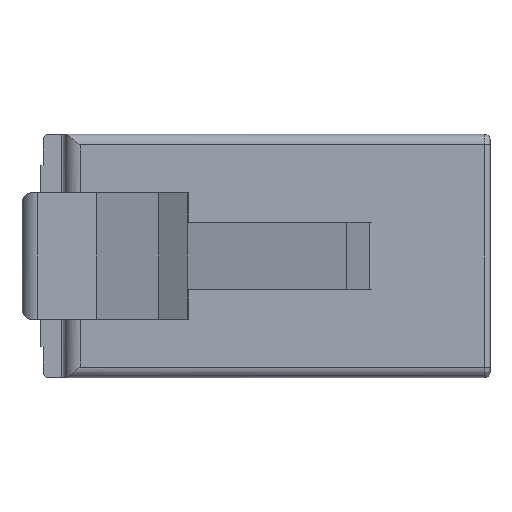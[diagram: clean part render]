
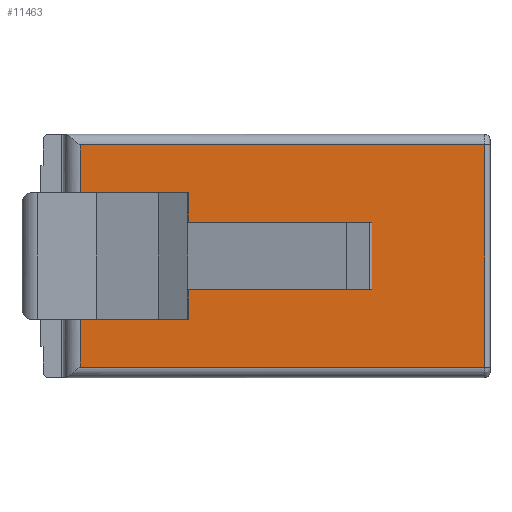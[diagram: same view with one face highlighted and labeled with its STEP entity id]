
A CAD part, front view. The second image highlights one B-rep face of the part: STEP entity #11463.
In plain terms, the highlighted planar face has unit normal (0, -1, 0).
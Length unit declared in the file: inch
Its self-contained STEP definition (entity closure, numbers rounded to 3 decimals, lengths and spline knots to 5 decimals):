
#2657=CARTESIAN_POINT('',(-0.3525,-0.1575,0.21));
#2659=DIRECTION('',(1.,0.,0.));
#2660=VECTOR('',#2659,0.04);
#2661=CARTESIAN_POINT('',(-0.3525,-0.1575,-0.12));
#2662=LINE('',#2661,#2660);
#2663=DIRECTION('',(0.,0.,1.));
#2664=VECTOR('',#2663,0.24);
#2665=CARTESIAN_POINT('',(-0.3125,-0.1575,-0.12));
#2666=LINE('',#2665,#2664);
#2667=DIRECTION('',(1.,0.,0.));
#2668=VECTOR('',#2667,0.04);
#2669=CARTESIAN_POINT('',(-0.3525,-0.1575,0.12));
#2670=LINE('',#2669,#2668);
#2671=DIRECTION('',(0.,0.,-1.));
#2672=VECTOR('',#2671,0.09);
#2673=CARTESIAN_POINT('',(-0.3525,-0.1575,0.21));
#2674=LINE('',#2673,#2672);
#2675=DIRECTION('',(-1.,0.,0.));
#2676=VECTOR('',#2675,0.765);
#2677=CARTESIAN_POINT('',(0.4125,-0.1575,0.21));
#2678=LINE('',#2677,#2676);
#2679=DIRECTION('',(0.,0.,-1.));
#2680=VECTOR('',#2679,0.42);
#2681=CARTESIAN_POINT('',(0.4125,-0.1575,0.21));
#2682=LINE('',#2681,#2680);
#2683=DIRECTION('',(-1.,0.,0.));
#2684=VECTOR('',#2683,0.765);
#2685=CARTESIAN_POINT('',(0.4125,-0.1575,-0.21));
#2686=LINE('',#2685,#2684);
#2687=DIRECTION('',(0.,0.,-1.));
#2688=VECTOR('',#2687,0.09);
#2689=CARTESIAN_POINT('',(-0.3525,-0.1575,-0.12));
#2690=LINE('',#2689,#2688);
#3389=CARTESIAN_POINT('',(-0.3525,-0.1575,-0.21));
#6155=VERTEX_POINT('',#2657);
#6156=VERTEX_POINT('',#3389);
#6233=CARTESIAN_POINT('',(0.4125,-0.1575,0.21));
#6234=VERTEX_POINT('',#6233);
#6237=CARTESIAN_POINT('',(0.4125,-0.1575,-0.21));
#6238=VERTEX_POINT('',#6237);
#6717=CARTESIAN_POINT('',(-0.3525,-0.1575,-0.12));
#6718=CARTESIAN_POINT('',(-0.3125,-0.1575,-0.12));
#6719=VERTEX_POINT('',#6717);
#6720=VERTEX_POINT('',#6718);
#6721=CARTESIAN_POINT('',(-0.3525,-0.1575,0.12));
#6722=CARTESIAN_POINT('',(-0.3125,-0.1575,0.12));
#6723=VERTEX_POINT('',#6721);
#6724=VERTEX_POINT('',#6722);
#11445=CARTESIAN_POINT('',(-0.4225,-0.1575,0.23));
#11446=DIRECTION('',(0.,-1.,0.));
#11447=DIRECTION('',(0.,0.,-1.));
#11448=AXIS2_PLACEMENT_3D('',#11445,#11446,#11447);
#11449=PLANE('',#11448);
#11450=ORIENTED_EDGE('',*,*,#11015,.T.);
#11452=ORIENTED_EDGE('',*,*,#11451,.T.);
#11453=ORIENTED_EDGE('',*,*,#11180,.F.);
#11454=ORIENTED_EDGE('',*,*,#11440,.F.);
#11456=ORIENTED_EDGE('',*,*,#11455,.F.);
#11457=ORIENTED_EDGE('',*,*,#10871,.T.);
#11459=ORIENTED_EDGE('',*,*,#11458,.T.);
#11460=ORIENTED_EDGE('',*,*,#11420,.F.);
#11461=EDGE_LOOP('',(#11450,#11452,#11453,#11454,#11456,#11457,#11459,#11460));
#11462=FACE_OUTER_BOUND('',#11461,.F.);
#11463=ADVANCED_FACE('',(#11462),#11449,.T.);
#10871=EDGE_CURVE('',#6234,#6238,#2682,.T.);
#11015=EDGE_CURVE('',#6719,#6720,#2662,.T.);
#11180=EDGE_CURVE('',#6723,#6724,#2670,.T.);
#11420=EDGE_CURVE('',#6719,#6156,#2690,.T.);
#11440=EDGE_CURVE('',#6155,#6723,#2674,.T.);
#11451=EDGE_CURVE('',#6720,#6724,#2666,.T.);
#11455=EDGE_CURVE('',#6234,#6155,#2678,.T.);
#11458=EDGE_CURVE('',#6238,#6156,#2686,.T.);
